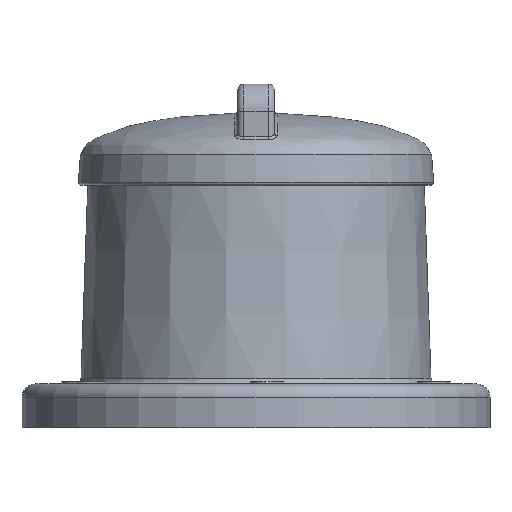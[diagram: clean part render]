
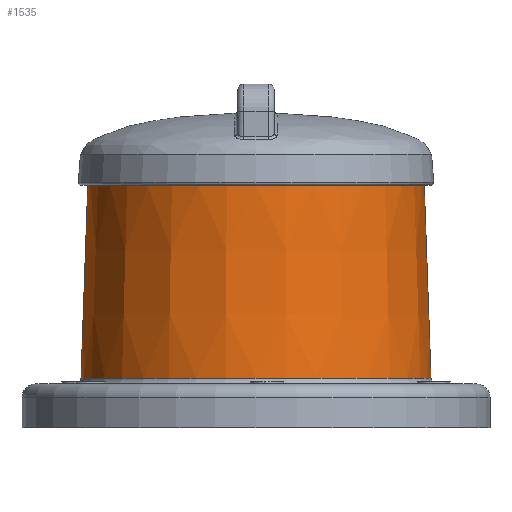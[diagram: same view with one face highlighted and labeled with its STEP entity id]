
A CAD part, front view. The second image highlights one B-rep face of the part: STEP entity #1535.
In plain terms, the highlighted conical face has half-angle 2 degrees and reference radius 2.864 mm.
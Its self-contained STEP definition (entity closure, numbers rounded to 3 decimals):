
#16=CONICAL_SURFACE('',#1686,2.864,0.035);
#140=LINE('',#3082,#237);
#237=VECTOR('',#1981,2.864);
#393=FACE_OUTER_BOUND('',#499,.T.);
#499=EDGE_LOOP('',(#1224,#1225,#1226,#1227));
#592=CIRCLE('',#1650,2.751);
#606=CIRCLE('',#1683,2.861);
#708=VERTEX_POINT('',#3020);
#719=VERTEX_POINT('',#3076);
#868=EDGE_CURVE('',#708,#708,#592,.T.);
#895=EDGE_CURVE('',#719,#719,#606,.T.);
#898=EDGE_CURVE('',#708,#719,#140,.T.);
#1224=ORIENTED_EDGE('',*,*,#868,.T.);
#1225=ORIENTED_EDGE('',*,*,#898,.T.);
#1226=ORIENTED_EDGE('',*,*,#895,.F.);
#1227=ORIENTED_EDGE('',*,*,#898,.F.);
#1535=ADVANCED_FACE('',(#393),#16,.T.);
#1650=AXIS2_PLACEMENT_3D('',#3021,#1895,#1896);
#1683=AXIS2_PLACEMENT_3D('',#3077,#1973,#1974);
#1686=AXIS2_PLACEMENT_3D('',#3081,#1979,#1980);
#1895=DIRECTION('center_axis',(0.,0.,-1.));
#1896=DIRECTION('ref_axis',(-1.,0.,0.));
#1973=DIRECTION('center_axis',(0.,0.,-1.));
#1974=DIRECTION('ref_axis',(-1.,0.,0.));
#1979=DIRECTION('center_axis',(0.,0.,-1.));
#1980=DIRECTION('ref_axis',(-1.,0.,0.));
#1981=DIRECTION('',(0.035,0.,-0.999));
#3020=CARTESIAN_POINT('',(5.798,25.327,4.021));
#3021=CARTESIAN_POINT('Origin',(3.047,25.327,4.021));
#3076=CARTESIAN_POINT('',(5.908,25.327,0.872));
#3077=CARTESIAN_POINT('Origin',(3.047,25.327,0.872));
#3081=CARTESIAN_POINT('Origin',(3.047,25.327,0.775));
#3082=CARTESIAN_POINT('',(5.912,25.327,0.775));
